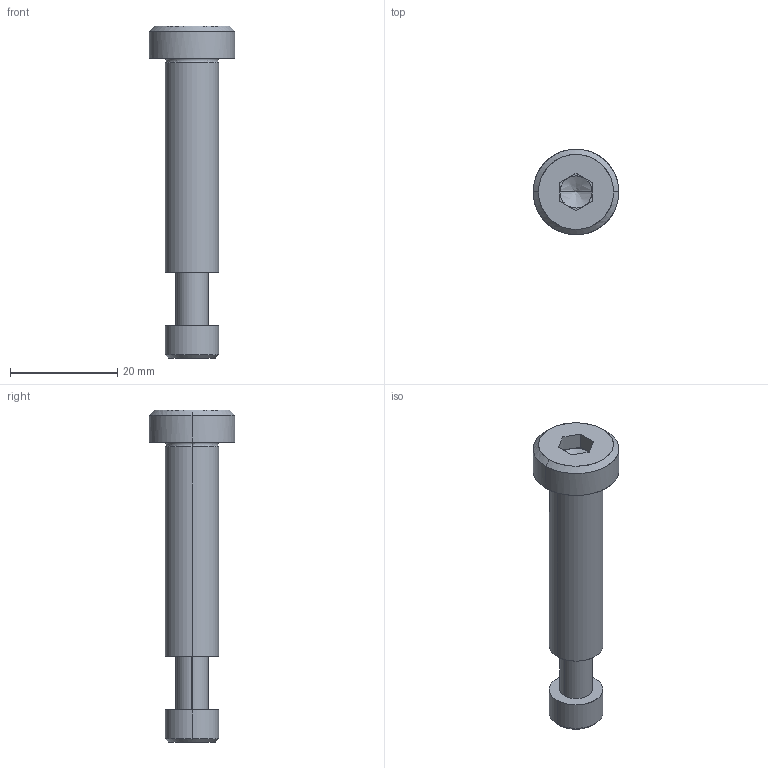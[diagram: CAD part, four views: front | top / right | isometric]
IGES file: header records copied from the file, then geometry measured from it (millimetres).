
Global section: file name: E:\UnigraphicsGraphicData\MISUMI_PRESS-PARTS\IGES\3d_sbtc10-40_05101_r00.igs; native system: NX V5.0; preprocessor: UGS NX IGES V5.0; author: MISUMI; date: 20110105.162442; units: millimetre
Bounding box: 16 x 16 x 62 mm (x, y, z)
Surface area: 3165.9 mm2 (no closed solid volume)
Topology: 0 solids, 0 shells, 52 faces, 280 edges, 276 vertices
Faces by surface type: bspline 52
